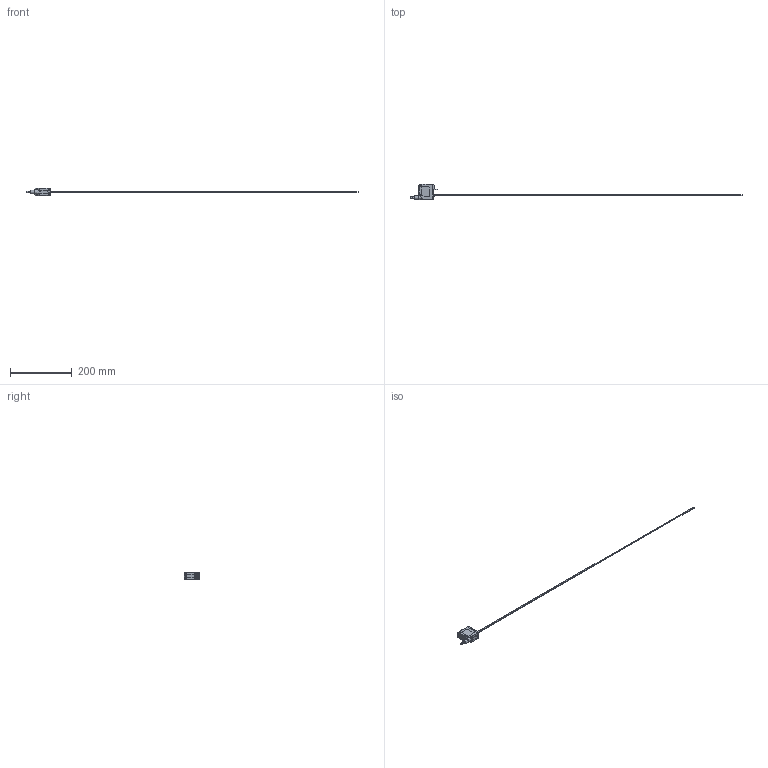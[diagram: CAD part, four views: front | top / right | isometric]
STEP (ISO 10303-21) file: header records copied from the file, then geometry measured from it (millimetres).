
FILE_DESCRIPTION(/* description */ (''),/* implementation_level */ '2;1');
FILE_NAME(/* name */ 'C:\Temp\Publisher-Output\623-11010_FT 55-RLH2-NS-K4.stp',/* time_stamp */ '2023-01-27T00:01:13+01:00',/* author */ ('Sandra.Stahl'),/* organization */ (''),/* preprocessor_version */ 'ST-DEVELOPER v18.1',/* originating_system */ 'Autodesk Inventor 2022',/* authorisation */ '');
FILE_SCHEMA (('AUTOMOTIVE_DESIGN { 1 0 10303 214 3 1 1 }'));
Length unit declared in the file: millimetre
Products named in the file (1): GH-ENG-0039484_Vereinfachen_1
Bounding box: 1077.7 x 51 x 23 mm (x, y, z)
Volume: 64435.3 mm3; surface area: 24482.2 mm2
Topology: 5 solids, 5 shells, 221 faces, 530 edges, 329 vertices
Faces by surface type: plane 128, cylinder 51, bspline 18, cone 10, sphere 10, torus 4
Full cylindrical faces by diameter (mm): 1 x1, 4 x1, 4.3 x1, 5 x2, 8.1 x1, 8.3 x1, 12.4 x1, 16 x1
Entity records: 7397 total; most frequent: CARTESIAN_POINT 2119, ORIENTED_EDGE 1038, DIRECTION 983, EDGE_CURVE 519, LINE 339, VECTOR 339, VERTEX_POINT 328, AXIS2_PLACEMENT_3D 322
